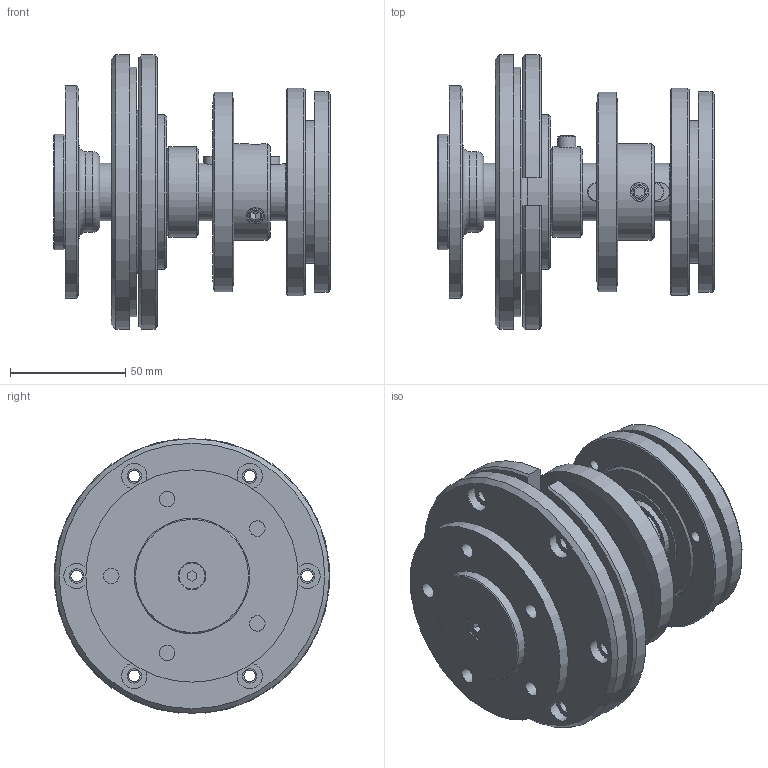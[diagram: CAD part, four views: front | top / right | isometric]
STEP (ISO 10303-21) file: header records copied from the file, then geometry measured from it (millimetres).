
FILE_DESCRIPTION(('STEP AP214'),'1');
FILE_NAME('Z:/J/Jp3/Axe de barre a pignon/Axe de barre 3D/AXE DE BARRE Ø25 INOX 5-8'.step','2012-02-23T13:44:49',(' '),(' '),'Spatial InterOp 3D',' ',' ');
FILE_SCHEMA(('automotive_design'));
Length unit declared in the file: metre
Products named in the file (29): Axe; Platine de fixation de barre; Platine support de roulement; Rlt à une rangée de billes, à contact radial 25×47×12 - 6005; Rlt à une rangée de billes, à contact radial 20×42×12 - 6004; contre plaque; bague d; vis HC à bout tronconique M8-12; clavette; pignon 5-8',; Platine support roulement av; centreur; vis F HC M6-20; vis HC à bout tronconique M8-10
Bounding box: 120 x 119 x 119 mm (x, y, z)
Volume: 438026.7 mm3; surface area: 144086.6 mm2
Topology: 29 solids, 29 shells, 303 faces, 645 edges, 415 vertices
Faces by surface type: plane 127, cylinder 98, cone 55, torus 15, sphere 8
Full cylindrical faces by diameter (mm): 5 x11, 6 x2, 6.2 x10, 6.75 x9, 8 x9, 11 x9, 11.3 x1, 12 x1, 20 x2, 24 x3, 25 x4, 27 x1, 27.7 x2, 30 x1, 32.7 x2, 34 x1, 34.3 x2, 35 x1, 39 x1, 39.3 x2, 42 x3, 47 x2, 50 x1, 62 x1, 63 x1, 67 x1, 86.515 x1, 87 x1, 90 x1, 92 x1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
Entity records: 10479 total; most frequent: CARTESIAN_POINT 1731, DIRECTION 1322, ORIENTED_EDGE 874, AXIS2_PLACEMENT_3D 580, EDGE_LOOP 549, EDGE_CURVE 437, FACE_OUTER_BOUND 399, VERTEX_POINT 365
